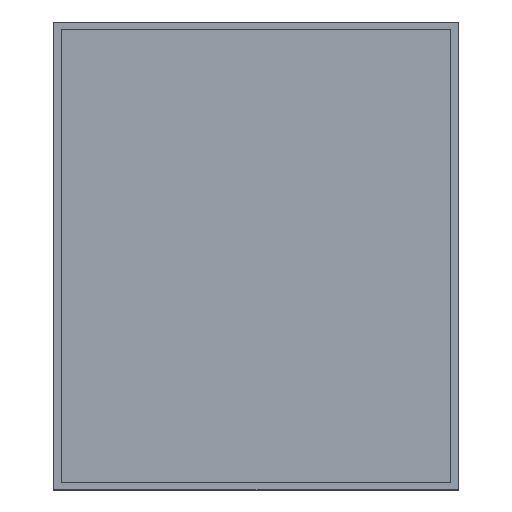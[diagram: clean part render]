
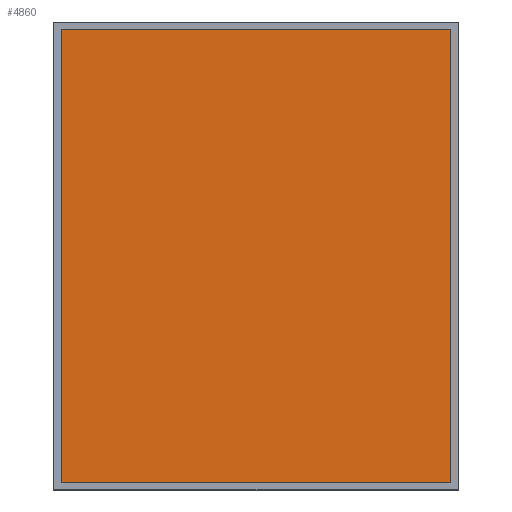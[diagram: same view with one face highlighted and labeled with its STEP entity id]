
A CAD part, top view. The second image highlights one B-rep face of the part: STEP entity #4860.
In plain terms, the highlighted planar face has unit normal (0, 0, 1).
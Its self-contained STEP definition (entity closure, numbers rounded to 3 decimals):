
#1089 = PLANE('',#1090);
#1090 = AXIS2_PLACEMENT_3D('',#1091,#1092,#1093);
#1091 = CARTESIAN_POINT('',(-104.,-121.,4.));
#1092 = DIRECTION('',(0.,1.,0.));
#1093 = DIRECTION('',(0.,0.,1.));
#1117 = PLANE('',#1118);
#1118 = AXIS2_PLACEMENT_3D('',#1119,#1120,#1121);
#1119 = CARTESIAN_POINT('',(-104.,-121.,4.));
#1120 = DIRECTION('',(1.,0.,0.));
#1121 = DIRECTION('',(0.,0.,1.));
#1145 = PLANE('',#1146);
#1146 = AXIS2_PLACEMENT_3D('',#1147,#1148,#1149);
#1147 = CARTESIAN_POINT('',(-104.,121.,4.));
#1148 = DIRECTION('',(0.,1.,0.));
#1149 = DIRECTION('',(0.,0.,1.));
#1171 = PLANE('',#1172);
#1172 = AXIS2_PLACEMENT_3D('',#1173,#1174,#1175);
#1173 = CARTESIAN_POINT('',(104.,-121.,4.));
#1174 = DIRECTION('',(1.,0.,0.));
#1175 = DIRECTION('',(0.,0.,1.));
#3350 = VERTEX_POINT('',#3351);
#3351 = CARTESIAN_POINT('',(104.,-121.,4.));
#3372 = EDGE_CURVE('',#3373,#3350,#3375,.T.);
#3373 = VERTEX_POINT('',#3374);
#3374 = CARTESIAN_POINT('',(-104.,-121.,4.));
#3375 = SURFACE_CURVE('',#3376,(#3380,#3387),.PCURVE_S1.);
#3376 = LINE('',#3377,#3378);
#3377 = CARTESIAN_POINT('',(-104.,-121.,4.));
#3378 = VECTOR('',#3379,1.);
#3379 = DIRECTION('',(1.,0.,0.));
#3380 = PCURVE('',#1089,#3381);
#3381 = DEFINITIONAL_REPRESENTATION('',(#3382),#3386);
#3382 = LINE('',#3383,#3384);
#3383 = CARTESIAN_POINT('',(0.,0.));
#3384 = VECTOR('',#3385,1.);
#3385 = DIRECTION('',(0.,1.));
#3386 = ( GEOMETRIC_REPRESENTATION_CONTEXT(2) 
PARAMETRIC_REPRESENTATION_CONTEXT() REPRESENTATION_CONTEXT('2D SPACE',''
  ) );
#3387 = PCURVE('',#3388,#3393);
#3388 = PLANE('',#3389);
#3389 = AXIS2_PLACEMENT_3D('',#3390,#3391,#3392);
#3390 = CARTESIAN_POINT('',(-104.,-121.,4.));
#3391 = DIRECTION('',(0.,0.,1.));
#3392 = DIRECTION('',(1.,0.,0.));
#3393 = DEFINITIONAL_REPRESENTATION('',(#3394),#3398);
#3394 = LINE('',#3395,#3396);
#3395 = CARTESIAN_POINT('',(0.,0.));
#3396 = VECTOR('',#3397,1.);
#3397 = DIRECTION('',(1.,0.));
#3398 = ( GEOMETRIC_REPRESENTATION_CONTEXT(2) 
PARAMETRIC_REPRESENTATION_CONTEXT() REPRESENTATION_CONTEXT('2D SPACE',''
  ) );
#3432 = EDGE_CURVE('',#3350,#3433,#3435,.T.);
#3433 = VERTEX_POINT('',#3434);
#3434 = CARTESIAN_POINT('',(104.,121.,4.));
#3435 = SURFACE_CURVE('',#3436,(#3440,#3447),.PCURVE_S1.);
#3436 = LINE('',#3437,#3438);
#3437 = CARTESIAN_POINT('',(104.,-121.,4.));
#3438 = VECTOR('',#3439,1.);
#3439 = DIRECTION('',(0.,1.,0.));
#3440 = PCURVE('',#1171,#3441);
#3441 = DEFINITIONAL_REPRESENTATION('',(#3442),#3446);
#3442 = LINE('',#3443,#3444);
#3443 = CARTESIAN_POINT('',(0.,0.));
#3444 = VECTOR('',#3445,1.);
#3445 = DIRECTION('',(0.,-1.));
#3446 = ( GEOMETRIC_REPRESENTATION_CONTEXT(2) 
PARAMETRIC_REPRESENTATION_CONTEXT() REPRESENTATION_CONTEXT('2D SPACE',''
  ) );
#3447 = PCURVE('',#3388,#3448);
#3448 = DEFINITIONAL_REPRESENTATION('',(#3449),#3453);
#3449 = LINE('',#3450,#3451);
#3450 = CARTESIAN_POINT('',(208.,0.));
#3451 = VECTOR('',#3452,1.);
#3452 = DIRECTION('',(0.,1.));
#3453 = ( GEOMETRIC_REPRESENTATION_CONTEXT(2) 
PARAMETRIC_REPRESENTATION_CONTEXT() REPRESENTATION_CONTEXT('2D SPACE',''
  ) );
#4105 = EDGE_CURVE('',#4106,#3433,#4108,.T.);
#4106 = VERTEX_POINT('',#4107);
#4107 = CARTESIAN_POINT('',(-104.,121.,4.));
#4108 = SURFACE_CURVE('',#4109,(#4113,#4120),.PCURVE_S1.);
#4109 = LINE('',#4110,#4111);
#4110 = CARTESIAN_POINT('',(-104.,121.,4.));
#4111 = VECTOR('',#4112,1.);
#4112 = DIRECTION('',(1.,0.,0.));
#4113 = PCURVE('',#1145,#4114);
#4114 = DEFINITIONAL_REPRESENTATION('',(#4115),#4119);
#4115 = LINE('',#4116,#4117);
#4116 = CARTESIAN_POINT('',(0.,0.));
#4117 = VECTOR('',#4118,1.);
#4118 = DIRECTION('',(0.,1.));
#4119 = ( GEOMETRIC_REPRESENTATION_CONTEXT(2) 
PARAMETRIC_REPRESENTATION_CONTEXT() REPRESENTATION_CONTEXT('2D SPACE',''
  ) );
#4120 = PCURVE('',#3388,#4121);
#4121 = DEFINITIONAL_REPRESENTATION('',(#4122),#4126);
#4122 = LINE('',#4123,#4124);
#4123 = CARTESIAN_POINT('',(0.,242.));
#4124 = VECTOR('',#4125,1.);
#4125 = DIRECTION('',(1.,0.));
#4126 = ( GEOMETRIC_REPRESENTATION_CONTEXT(2) 
PARAMETRIC_REPRESENTATION_CONTEXT() REPRESENTATION_CONTEXT('2D SPACE',''
  ) );
#4154 = EDGE_CURVE('',#3373,#4106,#4155,.T.);
#4155 = SURFACE_CURVE('',#4156,(#4160,#4167),.PCURVE_S1.);
#4156 = LINE('',#4157,#4158);
#4157 = CARTESIAN_POINT('',(-104.,-121.,4.));
#4158 = VECTOR('',#4159,1.);
#4159 = DIRECTION('',(0.,1.,0.));
#4160 = PCURVE('',#1117,#4161);
#4161 = DEFINITIONAL_REPRESENTATION('',(#4162),#4166);
#4162 = LINE('',#4163,#4164);
#4163 = CARTESIAN_POINT('',(0.,0.));
#4164 = VECTOR('',#4165,1.);
#4165 = DIRECTION('',(0.,-1.));
#4166 = ( GEOMETRIC_REPRESENTATION_CONTEXT(2) 
PARAMETRIC_REPRESENTATION_CONTEXT() REPRESENTATION_CONTEXT('2D SPACE',''
  ) );
#4167 = PCURVE('',#3388,#4168);
#4168 = DEFINITIONAL_REPRESENTATION('',(#4169),#4173);
#4169 = LINE('',#4170,#4171);
#4170 = CARTESIAN_POINT('',(0.,0.));
#4171 = VECTOR('',#4172,1.);
#4172 = DIRECTION('',(0.,1.));
#4173 = ( GEOMETRIC_REPRESENTATION_CONTEXT(2) 
PARAMETRIC_REPRESENTATION_CONTEXT() REPRESENTATION_CONTEXT('2D SPACE',''
  ) );
#4860 = ADVANCED_FACE('',(#4861),#3388,.T.);
#4861 = FACE_BOUND('',#4862,.T.);
#4862 = EDGE_LOOP('',(#4863,#4864,#4865,#4866));
#4863 = ORIENTED_EDGE('',*,*,#4154,.F.);
#4864 = ORIENTED_EDGE('',*,*,#3372,.T.);
#4865 = ORIENTED_EDGE('',*,*,#3432,.T.);
#4866 = ORIENTED_EDGE('',*,*,#4105,.F.);
